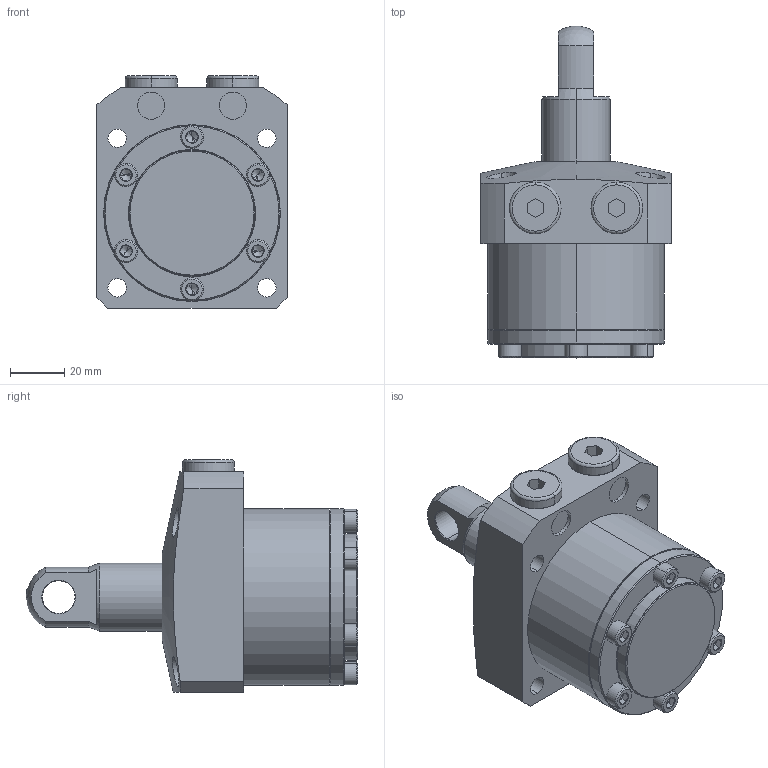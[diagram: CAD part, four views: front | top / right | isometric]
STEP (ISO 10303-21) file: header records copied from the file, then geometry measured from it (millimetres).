
FILE_DESCRIPTION (( 'STEP AP203' ), '1' );
FILE_NAME ('680650-CP-025.step', '2016-11-02T03:25:43', ( 'wxp' ), ( '' ), 'SwSTEP 2.0', 'SolidWorks 2011', '' );
FILE_SCHEMA (( 'CONFIG_CONTROL_DESIGN' ));
Length unit declared in the file: millimetre
Products named in the file (6): 680650-CP-025; 葩璃 680650-CA-15-14^680650-CP-025; 葩璃 68065-CA-15-5^680650-CP-025; 葩璃 68065-CA-15-4^680650-CP-025; 葩璃 68065-CA-15-3^680650-CP-025; 葩璃 68065-CA-15-1^680650-CP-025
Assembly tree (11 placements, depth 2):
  680650-CP-025
    葩璃 68065-CA-15-4^680650-CP-025  x6
    葩璃 68065-CA-15-5^680650-CP-025  x2
    葩璃 68065-CA-15-1^680650-CP-025
    葩璃 680650-CA-15-14^680650-CP-025
    葩璃 68065-CA-15-3^680650-CP-025
Bounding box: 70 x 122 x 85.5 mm (x, y, z)
Volume: 290124.6 mm3; surface area: 48271.9 mm2
Topology: 11 solids, 11 shells, 342 faces, 672 edges, 368 vertices
Faces by surface type: plane 137, cone 96, cylinder 91, torus 16, sphere 2
Entity records: 5638 total; most frequent: CARTESIAN_POINT 1183, DIRECTION 853, ORIENTED_EDGE 692, AXIS2_PLACEMENT_3D 358, EDGE_CURVE 346, VERTEX_POINT 211, EDGE_LOOP 199, CIRCLE 183
